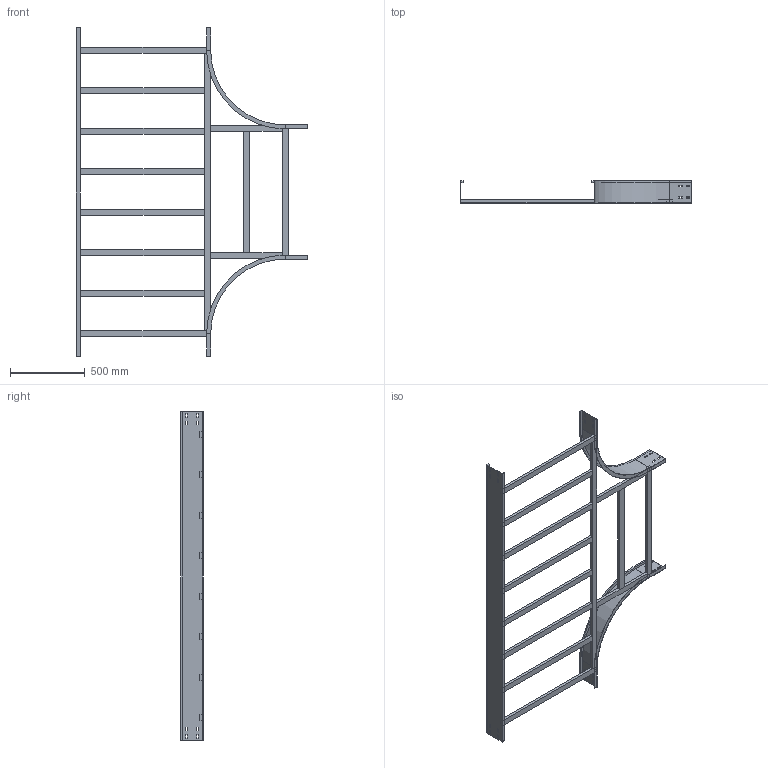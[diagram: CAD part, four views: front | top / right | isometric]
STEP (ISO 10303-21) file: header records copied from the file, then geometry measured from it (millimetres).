
FILE_DESCRIPTION (( 'STEP AP214' ), '1' );
FILE_NAME ('15J5F900.step', '2025-02-21T16:28:29', ( '' ), ( '' ), 'SwSTEP 2.0', 'SolidWorks 2023', '' );
FILE_SCHEMA (( 'AUTOMOTIVE_DESIGN' ));
Length unit declared in the file: millimetre
Products named in the file (8): TRAVERSINO_INTERMEDIO_R500+900; TRAVERSINO_900; TRAVERSINO_LONG._R500+900; TRAVERSINO_VERT_R500; 15J5F900; LONGH.RETT_H150_R500+900; LONGH.INTERNO 90°_H150_R500; TRAVERSINO_COPPIA_900
Assembly tree (16 placements, depth 2):
  15J5F900
    LONGH.INTERNO 90°_H150_R500  x2
    LONGH.RETT_H150_R500+900
    TRAVERSINO_900  x3
    TRAVERSINO_LONG._R500+900
    TRAVERSINO_INTERMEDIO_R500+900  x6
    TRAVERSINO_VERT_R500  x2
    TRAVERSINO_COPPIA_900
Bounding box: 1550 x 150 x 2200 mm (x, y, z)
Volume: 11649213.6 mm3; surface area: 3095440.7 mm2
Topology: 16 solids, 16 shells, 236 faces, 580 edges, 376 vertices
Faces by surface type: plane 228, cylinder 8
Entity records: 4225 total; most frequent: CARTESIAN_POINT 697, ORIENTED_EDGE 664, DIRECTION 638, EDGE_CURVE 332, LINE 324, VECTOR 324, VERTEX_POINT 216, EDGE_LOOP 162
